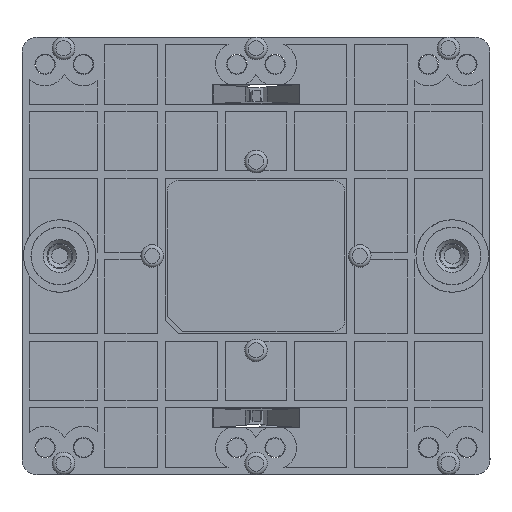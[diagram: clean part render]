
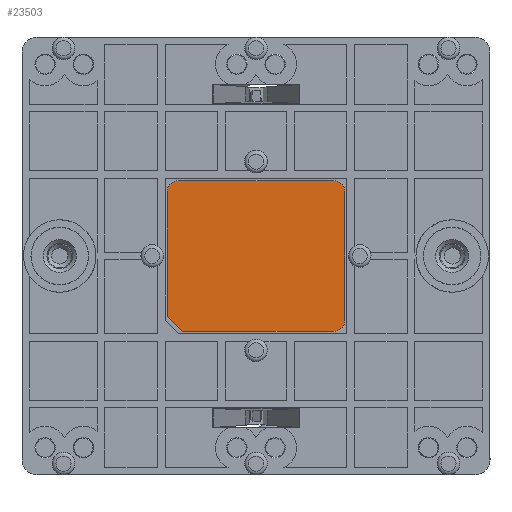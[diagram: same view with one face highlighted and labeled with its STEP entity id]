
A CAD part, front view. The second image highlights one B-rep face of the part: STEP entity #23503.
In plain terms, the highlighted planar face has unit normal (-0.001, -1, 0).
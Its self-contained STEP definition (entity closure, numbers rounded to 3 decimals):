
#23239=CARTESIAN_POINT('',(-45.763,-28.618,19.75));
#23240=VERTEX_POINT('',#23239);
#23241=CARTESIAN_POINT('',(-45.763,-28.618,2.75));
#23242=VERTEX_POINT('',#23241);
#23243=CARTESIAN_POINT('',(-45.763,-28.618,19.75));
#23244=DIRECTION('',(0.0,0.0,-1.0));
#23245=VECTOR('',#23244,17.);
#23246=LINE('',#23243,#23245);
#23247=EDGE_CURVE('',#23240,#23242,#23246,.T.);
#23279=CARTESIAN_POINT('',(-47.263,-28.616,1.25));
#23280=VERTEX_POINT('',#23279);
#23281=CARTESIAN_POINT('',(-47.263,-28.616,2.75));
#23282=DIRECTION('',(0.001,1.,0.0));
#23283=DIRECTION('',(0.0,0.0,1.0));
#23284=AXIS2_PLACEMENT_3D('',#23281,#23282,#23283);
#23285=CIRCLE('',#23284,1.5);
#23286=EDGE_CURVE('',#23242,#23280,#23285,.T.);
#23312=CARTESIAN_POINT('',(-67.263,-28.59,1.25));
#23313=VERTEX_POINT('',#23312);
#23314=CARTESIAN_POINT('',(-47.263,-28.616,1.25));
#23315=DIRECTION('',(-1.,0.001,0.));
#23316=VECTOR('',#23315,20.);
#23317=LINE('',#23314,#23316);
#23318=EDGE_CURVE('',#23280,#23313,#23317,.T.);
#23343=CARTESIAN_POINT('',(-69.263,-28.588,3.25));
#23344=VERTEX_POINT('',#23343);
#23345=CARTESIAN_POINT('',(-67.263,-28.59,1.25));
#23346=DIRECTION('',(-0.707,0.001,0.707));
#23347=VECTOR('',#23346,2.828);
#23348=LINE('',#23345,#23347);
#23349=EDGE_CURVE('',#23313,#23344,#23348,.T.);
#23374=CARTESIAN_POINT('',(-69.263,-28.588,19.75));
#23375=VERTEX_POINT('',#23374);
#23376=CARTESIAN_POINT('',(-69.263,-28.588,3.25));
#23377=DIRECTION('',(0.0,0.0,1.0));
#23378=VECTOR('',#23377,16.5);
#23379=LINE('',#23376,#23378);
#23380=EDGE_CURVE('',#23344,#23375,#23379,.T.);
#23405=CARTESIAN_POINT('',(-67.763,-28.589,21.25));
#23406=VERTEX_POINT('',#23405);
#23407=CARTESIAN_POINT('',(-67.763,-28.589,19.75));
#23408=DIRECTION('',(0.001,1.,0.0));
#23409=DIRECTION('',(0.0,0.0,-1.0));
#23410=AXIS2_PLACEMENT_3D('',#23407,#23408,#23409);
#23411=CIRCLE('',#23410,1.5);
#23412=EDGE_CURVE('',#23375,#23406,#23411,.T.);
#23438=CARTESIAN_POINT('',(-47.263,-28.616,21.25));
#23439=VERTEX_POINT('',#23438);
#23440=CARTESIAN_POINT('',(-67.763,-28.589,21.25));
#23441=DIRECTION('',(1.,-0.001,0.));
#23442=VECTOR('',#23441,20.5);
#23443=LINE('',#23440,#23442);
#23444=EDGE_CURVE('',#23406,#23439,#23443,.T.);
#23469=CARTESIAN_POINT('',(-47.263,-28.616,19.75));
#23470=DIRECTION('',(0.001,1.,0.));
#23471=DIRECTION('',(-1.,0.001,0.));
#23472=AXIS2_PLACEMENT_3D('',#23469,#23470,#23471);
#23473=CIRCLE('',#23472,1.5);
#23474=EDGE_CURVE('',#23439,#23240,#23473,.T.);
#23488=CARTESIAN_POINT('',(-57.431,-28.603,11.32));
#23489=DIRECTION('',(-0.001,-1.,0.));
#23490=DIRECTION('',(0.0,0.0,-1.0));
#23491=AXIS2_PLACEMENT_3D('',#23488,#23489,#23490);
#23492=PLANE('',#23491);
#23493=ORIENTED_EDGE('',*,*,#23247,.F.);
#23494=ORIENTED_EDGE('',*,*,#23474,.F.);
#23495=ORIENTED_EDGE('',*,*,#23444,.F.);
#23496=ORIENTED_EDGE('',*,*,#23412,.F.);
#23497=ORIENTED_EDGE('',*,*,#23380,.F.);
#23498=ORIENTED_EDGE('',*,*,#23349,.F.);
#23499=ORIENTED_EDGE('',*,*,#23318,.F.);
#23500=ORIENTED_EDGE('',*,*,#23286,.F.);
#23501=EDGE_LOOP('',(#23493,#23494,#23495,#23496,#23497,#23498,#23499,#23500));
#23502=FACE_OUTER_BOUND('',#23501,.T.);
#23503=ADVANCED_FACE('',(#23502),#23492,.T.);
